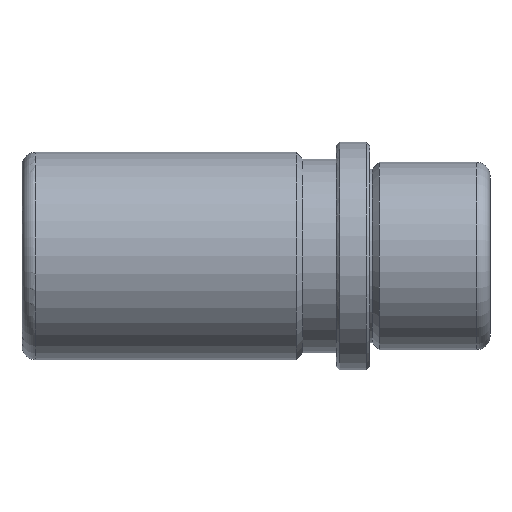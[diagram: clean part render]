
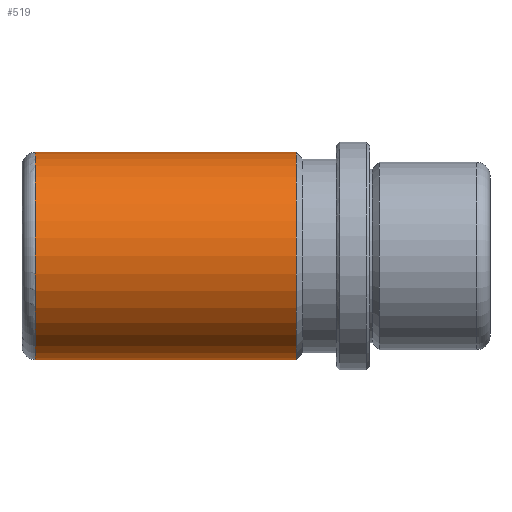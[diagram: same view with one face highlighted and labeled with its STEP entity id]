
A CAD part, front view. The second image highlights one B-rep face of the part: STEP entity #519.
In plain terms, the highlighted cylindrical face has radius 15.5 mm (diameter 31 mm), a partial arc.
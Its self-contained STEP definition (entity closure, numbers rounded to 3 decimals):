
#308=CARTESIAN_POINT('Line Origine',(18.,0.,15.5)) ;
#312=CARTESIAN_POINT('Vertex',(-11.,0.,15.5)) ;
#314=CARTESIAN_POINT('Vertex',(-50.,0.,15.5)) ;
#328=CARTESIAN_POINT('Vertex',(-11.,0.,-15.5)) ;
#331=CARTESIAN_POINT('Line Origine',(18.,0.,-15.5)) ;
#335=CARTESIAN_POINT('Vertex',(-50.,0.,-15.5)) ;
#482=CARTESIAN_POINT('Axis2P3D Location',(18.,0.,0.)) ;
#487=CARTESIAN_POINT('Axis2P3D Location',(-11.,0.,0.)) ;
#491=CARTESIAN_POINT('Vertex',(-11.,-15.5,0.)) ;
#494=CARTESIAN_POINT('Axis2P3D Location',(-11.,0.,0.)) ;
#499=CARTESIAN_POINT('Axis2P3D Location',(-50.,0.,0.)) ;
#503=CARTESIAN_POINT('Vertex',(-50.,-15.5,0.)) ;
#506=CARTESIAN_POINT('Axis2P3D Location',(-50.,0.,0.)) ;
#309=DIRECTION('Vector Direction',(-1.,0.,0.)) ;
#332=DIRECTION('Vector Direction',(-1.,0.,0.)) ;
#483=DIRECTION('Axis2P3D Direction',(-1.,-0.,-0.)) ;
#484=DIRECTION('Axis2P3D XDirection',(0.,0.,-1.)) ;
#488=DIRECTION('Axis2P3D Direction',(-1.,-0.,-0.)) ;
#495=DIRECTION('Axis2P3D Direction',(-1.,-0.,-0.)) ;
#500=DIRECTION('Axis2P3D Direction',(-1.,-0.,-0.)) ;
#507=DIRECTION('Axis2P3D Direction',(-1.,-0.,-0.)) ;
#485=AXIS2_PLACEMENT_3D('Cylinder Axis2P3D',#482,#483,#484) ;
#489=AXIS2_PLACEMENT_3D('Circle Axis2P3D',#487,#488,$) ;
#496=AXIS2_PLACEMENT_3D('Circle Axis2P3D',#494,#495,$) ;
#501=AXIS2_PLACEMENT_3D('Circle Axis2P3D',#499,#500,$) ;
#508=AXIS2_PLACEMENT_3D('Circle Axis2P3D',#506,#507,$) ;
#512=ORIENTED_EDGE('',*,*,#337,.T.) ;
#513=ORIENTED_EDGE('',*,*,#493,.F.) ;
#514=ORIENTED_EDGE('',*,*,#498,.F.) ;
#515=ORIENTED_EDGE('',*,*,#316,.T.) ;
#516=ORIENTED_EDGE('',*,*,#505,.T.) ;
#517=ORIENTED_EDGE('',*,*,#510,.T.) ;
#310=VECTOR('Line Direction',#309,1.) ;
#333=VECTOR('Line Direction',#332,1.) ;
#519=ADVANCED_FACE('FAMO-SF1-E18 x 70',(#518),#486,.T.) ;
#490=CIRCLE('generated circle',#489,15.5) ;
#497=CIRCLE('generated circle',#496,15.5) ;
#502=CIRCLE('generated circle',#501,15.5) ;
#509=CIRCLE('generated circle',#508,15.5) ;
#486=CYLINDRICAL_SURFACE('generated cylinder',#485,15.5) ;
#316=EDGE_CURVE('',#313,#315,#311,.T.) ;
#337=EDGE_CURVE('',#336,#329,#334,.F.) ;
#493=EDGE_CURVE('',#492,#329,#490,.F.) ;
#498=EDGE_CURVE('',#313,#492,#497,.F.) ;
#505=EDGE_CURVE('',#315,#504,#502,.F.) ;
#510=EDGE_CURVE('',#504,#336,#509,.F.) ;
#511=EDGE_LOOP('',(#512,#513,#514,#515,#516,#517)) ;
#518=FACE_OUTER_BOUND('',#511,.T.) ;
#311=LINE('Line',#308,#310) ;
#334=LINE('Line',#331,#333) ;
#313=VERTEX_POINT('',#312) ;
#315=VERTEX_POINT('',#314) ;
#329=VERTEX_POINT('',#328) ;
#336=VERTEX_POINT('',#335) ;
#492=VERTEX_POINT('',#491) ;
#504=VERTEX_POINT('',#503) ;
